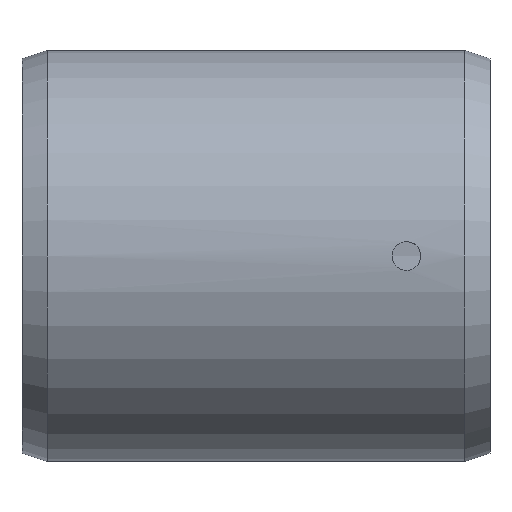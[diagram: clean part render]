
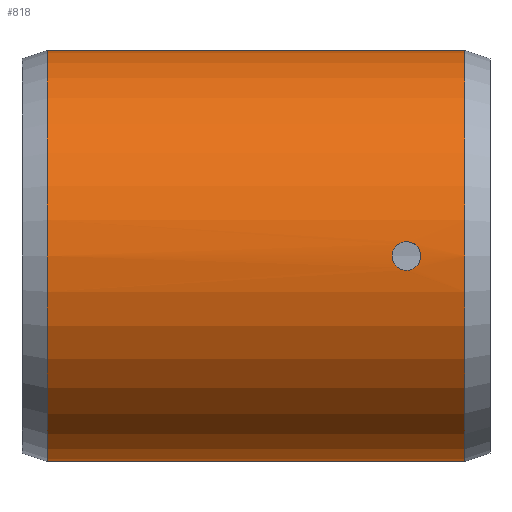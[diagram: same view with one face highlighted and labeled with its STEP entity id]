
A CAD part, front view. The second image highlights one B-rep face of the part: STEP entity #818.
In plain terms, the highlighted cylindrical face has radius 24.606 mm (diameter 49.213 mm), a partial arc.
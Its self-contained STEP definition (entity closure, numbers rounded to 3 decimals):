
#10 = VERTEX_POINT ( 'NONE', #196 ) ;
#13 = CARTESIAN_POINT ( 'NONE',  ( 16.947, -24.568, -1.374 ) ) ;
#15 = CARTESIAN_POINT ( 'NONE',  ( 16.698, -24.58, 1.14 ) ) ;
#24 = DIRECTION ( 'NONE',  ( 0., 0., -1. ) ) ;
#26 = CARTESIAN_POINT ( 'NONE',  ( 19.061, -24.568, 1.381 ) ) ;
#28 = CARTESIAN_POINT ( 'NONE',  ( 19.553, -24.595, -0.765 ) ) ;
#33 = CARTESIAN_POINT ( 'NONE',  ( 28., 0., 24.606 ) ) ;
#62 = VERTEX_POINT ( 'NONE', #127 ) ;
#67 = FACE_BOUND ( 'NONE', #905, .T. ) ;
#74 = CIRCLE ( 'NONE', #270, 24.606 ) ;
#80 = VECTOR ( 'NONE', #479, 1000. ) ;
#85 = CARTESIAN_POINT ( 'NONE',  ( 16.619, -24.584, -1.062 ) ) ;
#91 = CARTESIAN_POINT ( 'NONE',  ( 16.946, -24.568, 1.373 ) ) ;
#106 = CARTESIAN_POINT ( 'NONE',  ( 19.373, -24.584, 1.054 ) ) ;
#108 = CARTESIAN_POINT ( 'NONE',  ( 19.375, -24.584, -1.052 ) ) ;
#127 = CARTESIAN_POINT ( 'NONE',  ( 25., 0., -24.606 ) ) ;
#131 = CARTESIAN_POINT ( 'NONE',  ( 28., 0., -24.606 ) ) ;
#155 = EDGE_LOOP ( 'NONE', ( #476, #942, #880, #889 ) ) ;
#157 = CARTESIAN_POINT ( 'NONE',  ( 16.318, -24.603, -0.453 ) ) ;
#162 = CARTESIAN_POINT ( 'NONE',  ( 17.234, -24.557, 1.552 ) ) ;
#170 = CARTESIAN_POINT ( 'NONE',  ( 18.225, -24.546, 1.727 ) ) ;
#172 = CARTESIAN_POINT ( 'NONE',  ( 19.552, -24.595, 0.767 ) ) ;
#173 = CARTESIAN_POINT ( 'NONE',  ( 19.063, -24.568, -1.38 ) ) ;
#196 = CARTESIAN_POINT ( 'NONE',  ( 18., -24.546, 1.727 ) ) ;
#206 = AXIS2_PLACEMENT_3D ( 'NONE', #713, #865, #413 ) ;
#212 = CARTESIAN_POINT ( 'NONE',  ( 25., 0., 24.606 ) ) ;
#238 = CARTESIAN_POINT ( 'NONE',  ( 16.273, -24.606, 0.112 ) ) ;
#243 = CARTESIAN_POINT ( 'NONE',  ( 17.551, -24.549, 1.672 ) ) ;
#247 = LINE ( 'NONE', #33, #80 ) ;
#250 = CARTESIAN_POINT ( 'NONE',  ( 18., -24.546, 1.727 ) ) ;
#252 = CARTESIAN_POINT ( 'NONE',  ( 19.672, -24.602, 0.448 ) ) ;
#257 = CARTESIAN_POINT ( 'NONE',  ( 18.455, -24.549, -1.681 ) ) ;
#270 = AXIS2_PLACEMENT_3D ( 'NONE', #968, #954, #947 ) ;
#272 = CIRCLE ( 'NONE', #882, 24.606 ) ;
#280 = B_SPLINE_CURVE_WITH_KNOTS ( 'NONE', 3,
 ( #309, #686, #312, #834, #376, #913, #457, #13, #526, #85, #612, #157, #688, #238, #758, #313, #835, #381, #919, #459, #15, #531, #91, #615, #162, #692, #243, #759, #317, #836 ),
 .UNSPECIFIED., .F., .F.,
 ( 4, 2, 2, 2, 2, 2, 2, 2, 2, 2, 2, 2, 2, 2, 4 ),
 ( 0., 0., 0.001, 0.001, 0.001, 0.002, 0.003, 0.003, 0.003, 0.004, 0.004, 0.004, 0.005, 0.005, 0.005 ),
 .UNSPECIFIED. ) ;
#285 = EDGE_CURVE ( 'NONE', #961, #632, #74, .T. ) ;
#309 = CARTESIAN_POINT ( 'NONE',  ( 18., -24.546, -1.727 ) ) ;
#312 = CARTESIAN_POINT ( 'NONE',  ( 17.774, -24.546, -1.716 ) ) ;
#313 = CARTESIAN_POINT ( 'NONE',  ( 16.328, -24.602, 0.448 ) ) ;
#317 = CARTESIAN_POINT ( 'NONE',  ( 17.887, -24.546, 1.727 ) ) ;
#329 = CARTESIAN_POINT ( 'NONE',  ( 19.727, -24.606, 0.115 ) ) ;
#331 = CARTESIAN_POINT ( 'NONE',  ( 18., -24.546, -1.727 ) ) ;
#376 = CARTESIAN_POINT ( 'NONE',  ( 17.443, -24.552, -1.639 ) ) ;
#377 = FACE_OUTER_BOUND ( 'NONE', #155, .T. ) ;
#381 = CARTESIAN_POINT ( 'NONE',  ( 16.447, -24.595, 0.765 ) ) ;
#400 = CARTESIAN_POINT ( 'NONE',  ( 19.716, -24.605, -0.225 ) ) ;
#413 = DIRECTION ( 'NONE',  ( 0., 0., 1. ) ) ;
#448 = ORIENTED_EDGE ( 'NONE', *, *, #738, .T. ) ;
#457 = CARTESIAN_POINT ( 'NONE',  ( 17.135, -24.561, -1.499 ) ) ;
#459 = CARTESIAN_POINT ( 'NONE',  ( 16.626, -24.584, 1.053 ) ) ;
#471 = DIRECTION ( 'NONE',  ( -1., 0., 0. ) ) ;
#474 = CARTESIAN_POINT ( 'NONE',  ( 18.868, -24.56, 1.51 ) ) ;
#476 = ORIENTED_EDGE ( 'NONE', *, *, #500, .F. ) ;
#478 = CARTESIAN_POINT ( 'NONE',  ( 19.639, -24.6, -0.555 ) ) ;
#479 = DIRECTION ( 'NONE',  ( -1., 0., 0. ) ) ;
#500 = EDGE_CURVE ( 'NONE', #62, #632, #582, .T. ) ;
#509 = DIRECTION ( 'NONE',  ( -1., 0., 0. ) ) ;
#517 = VERTEX_POINT ( 'NONE', #212 ) ;
#526 = CARTESIAN_POINT ( 'NONE',  ( 16.858, -24.572, -1.301 ) ) ;
#531 = CARTESIAN_POINT ( 'NONE',  ( 16.859, -24.572, 1.302 ) ) ;
#546 = CARTESIAN_POINT ( 'NONE',  ( 19.3, -24.58, 1.143 ) ) ;
#547 = CARTESIAN_POINT ( 'NONE',  ( 19.5, -24.591, -0.864 ) ) ;
#571 = VECTOR ( 'NONE', #509, 1000. ) ;
#582 = LINE ( 'NONE', #131, #571 ) ;
#612 = CARTESIAN_POINT ( 'NONE',  ( 16.491, -24.592, -0.869 ) ) ;
#615 = CARTESIAN_POINT ( 'NONE',  ( 17.133, -24.561, 1.498 ) ) ;
#624 = CARTESIAN_POINT ( 'NONE',  ( 18., -24.546, -1.727 ) ) ;
#627 = CARTESIAN_POINT ( 'NONE',  ( 19.499, -24.591, 0.866 ) ) ;
#631 = CARTESIAN_POINT ( 'NONE',  ( 19.302, -24.58, -1.141 ) ) ;
#632 = VERTEX_POINT ( 'NONE', #685 ) ;
#662 = EDGE_CURVE ( 'NONE', #714, #10, #280, .T. ) ;
#685 = CARTESIAN_POINT ( 'NONE',  ( -25., 0., -24.606 ) ) ;
#686 = CARTESIAN_POINT ( 'NONE',  ( 17.886, -24.546, -1.727 ) ) ;
#688 = CARTESIAN_POINT ( 'NONE',  ( 16.273, -24.606, -0.226 ) ) ;
#692 = CARTESIAN_POINT ( 'NONE',  ( 17.444, -24.552, 1.639 ) ) ;
#703 = CARTESIAN_POINT ( 'NONE',  ( 19.638, -24.6, 0.558 ) ) ;
#706 = CARTESIAN_POINT ( 'NONE',  ( 18.87, -24.56, -1.509 ) ) ;
#708 = EDGE_CURVE ( 'NONE', #62, #517, #272, .T. ) ;
#713 = CARTESIAN_POINT ( 'NONE',  ( 28., 0., 0. ) ) ;
#714 = VERTEX_POINT ( 'NONE', #624 ) ;
#716 = CYLINDRICAL_SURFACE ( 'NONE', #206, 24.606 ) ;
#717 = B_SPLINE_CURVE_WITH_KNOTS ( 'NONE', 3,
 ( #250, #170, #933, #474, #26, #546, #106, #627, #172, #703, #252, #774, #329, #853, #400, #936, #478, #28, #547, #108, #631, #173, #706, #257, #778, #331 ),
 .UNSPECIFIED., .F., .F.,
 ( 4, 2, 2, 2, 2, 2, 2, 2, 2, 2, 2, 2, 4 ),
 ( 0.005, 0.006, 0.007, 0.007, 0.007, 0.008, 0.008, 0.008, 0.009, 0.009, 0.009, 0.01, 0.011 ),
 .UNSPECIFIED. ) ;
#738 = EDGE_CURVE ( 'NONE', #10, #714, #717, .T. ) ;
#755 = EDGE_CURVE ( 'NONE', #517, #961, #247, .T. ) ;
#758 = CARTESIAN_POINT ( 'NONE',  ( 16.284, -24.605, 0.227 ) ) ;
#759 = CARTESIAN_POINT ( 'NONE',  ( 17.773, -24.546, 1.716 ) ) ;
#774 = CARTESIAN_POINT ( 'NONE',  ( 19.716, -24.605, 0.228 ) ) ;
#778 = CARTESIAN_POINT ( 'NONE',  ( 18.228, -24.546, -1.727 ) ) ;
#799 = CARTESIAN_POINT ( 'NONE',  ( -25., 0., 24.606 ) ) ;
#818 = ADVANCED_FACE ( 'NONE', ( #377, #67 ), #716, .T. ) ;
#823 = ORIENTED_EDGE ( 'NONE', *, *, #662, .T. ) ;
#834 = CARTESIAN_POINT ( 'NONE',  ( 17.553, -24.549, -1.672 ) ) ;
#835 = CARTESIAN_POINT ( 'NONE',  ( 16.361, -24.6, 0.556 ) ) ;
#836 = CARTESIAN_POINT ( 'NONE',  ( 18., -24.546, 1.727 ) ) ;
#853 = CARTESIAN_POINT ( 'NONE',  ( 19.727, -24.606, -0.113 ) ) ;
#865 = DIRECTION ( 'NONE',  ( -1., 0., 0. ) ) ;
#880 = ORIENTED_EDGE ( 'NONE', *, *, #755, .T. ) ;
#882 = AXIS2_PLACEMENT_3D ( 'NONE', #927, #471, #24 ) ;
#889 = ORIENTED_EDGE ( 'NONE', *, *, #285, .T. ) ;
#905 = EDGE_LOOP ( 'NONE', ( #823, #448 ) ) ;
#913 = CARTESIAN_POINT ( 'NONE',  ( 17.234, -24.557, -1.552 ) ) ;
#919 = CARTESIAN_POINT ( 'NONE',  ( 16.501, -24.591, 0.866 ) ) ;
#927 = CARTESIAN_POINT ( 'NONE',  ( 25., 0., 0. ) ) ;
#933 = CARTESIAN_POINT ( 'NONE',  ( 18.453, -24.549, 1.682 ) ) ;
#936 = CARTESIAN_POINT ( 'NONE',  ( 19.672, -24.602, -0.446 ) ) ;
#942 = ORIENTED_EDGE ( 'NONE', *, *, #708, .T. ) ;
#947 = DIRECTION ( 'NONE',  ( 0., 0., -1. ) ) ;
#954 = DIRECTION ( 'NONE',  ( 1., 0., 0. ) ) ;
#961 = VERTEX_POINT ( 'NONE', #799 ) ;
#968 = CARTESIAN_POINT ( 'NONE',  ( -25., 0., 0. ) ) ;
